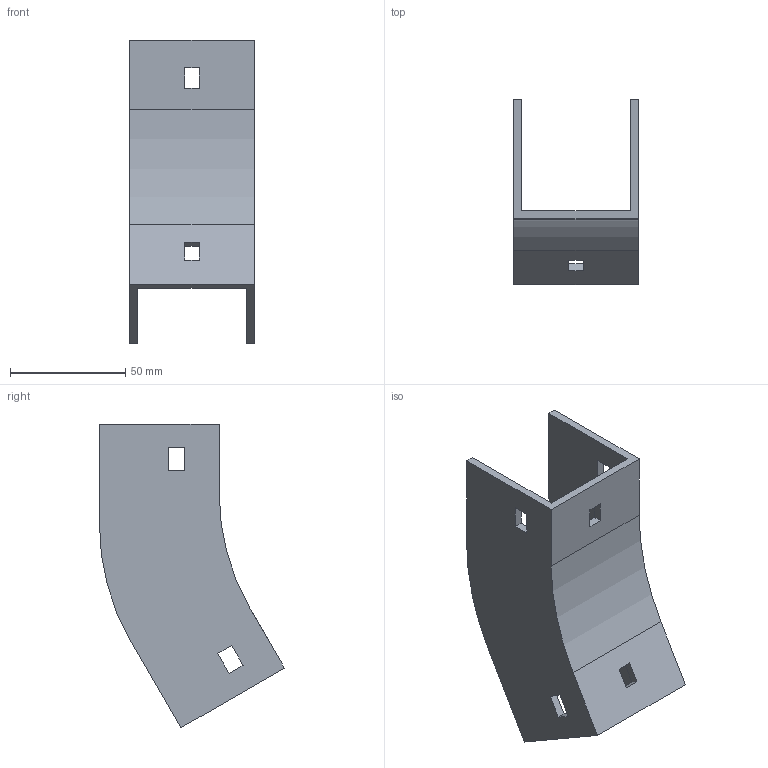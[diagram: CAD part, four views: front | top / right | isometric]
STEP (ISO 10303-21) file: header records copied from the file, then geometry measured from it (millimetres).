
FILE_DESCRIPTION (( 'STEP AP214' ), '1' );
FILE_NAME ('35F1B050.step', '2025-02-21T12:49:11', ( '' ), ( '' ), 'SwSTEP 2.0', 'SolidWorks 2023', '' );
FILE_SCHEMA (( 'AUTOMOTIVE_DESIGN' ));
Length unit declared in the file: millimetre
Products named in the file (1): 35F1B050
Bounding box: 54 x 80.4 x 131.98 mm (x, y, z)
Volume: 63662.9 mm3; surface area: 39104 mm2
Topology: 1 solids, 1 shells, 42 faces, 120 edges, 80 vertices
Faces by surface type: plane 38, cylinder 4
Entity records: 1399 total; most frequent: CARTESIAN_POINT 243, ORIENTED_EDGE 240, DIRECTION 214, EDGE_CURVE 120, LINE 112, VECTOR 112, VERTEX_POINT 80, EDGE_LOOP 54
